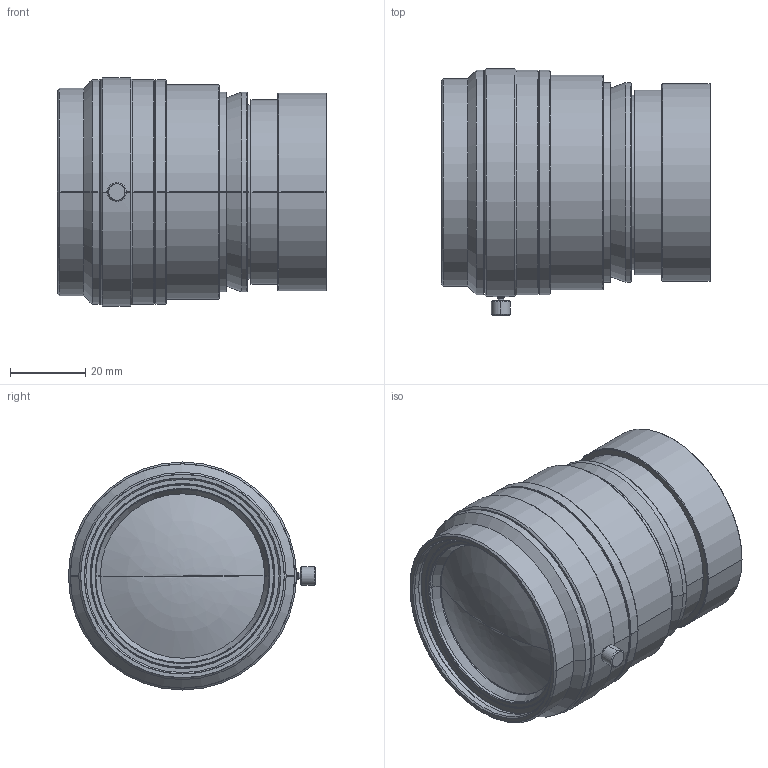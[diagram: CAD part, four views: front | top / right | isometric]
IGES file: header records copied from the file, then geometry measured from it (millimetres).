
Start section: SolidWorks IGES file using analytic representation for surfaces
Global section: file name: C:\Users\tsuji_vst\Documents\【作業フォルダ】\【3D】\00 VST\VS-L\VS-12035-05_V\VS-L12035-05_V.IGS; native system: SolidWorks 2018; preprocessor: SolidWorks 2018; author: tsuji_vst; date: 190222.110732; units: millimetre
Bounding box: 71.5 x 65.55 x 60.5 mm (x, y, z)
Surface area: 21346.3 mm2 (no closed solid volume)
Topology: 0 solids, 0 shells, 126 faces, 2608 edges, 2606 vertices
Faces by surface type: revolution 108, bspline 18
